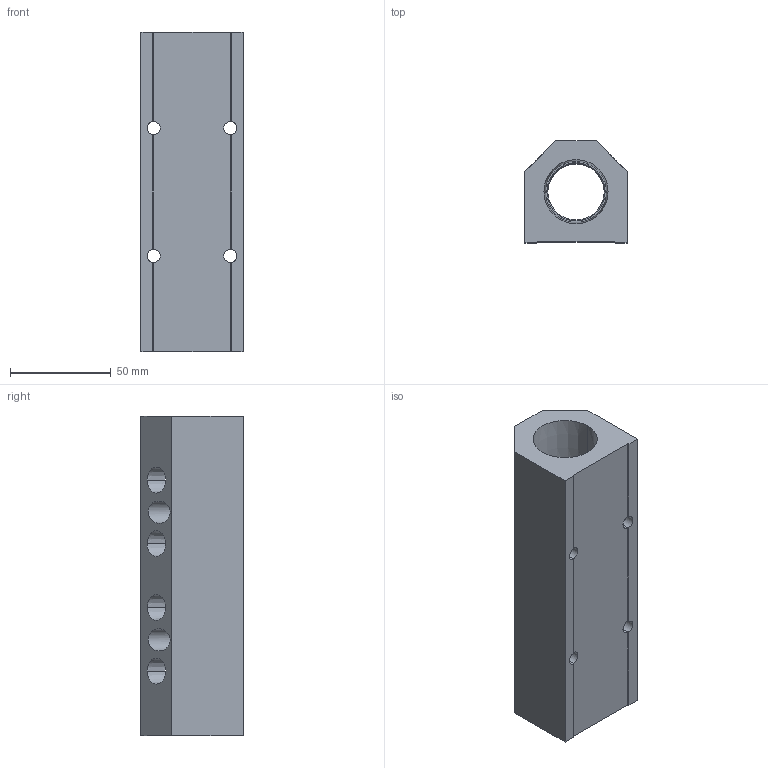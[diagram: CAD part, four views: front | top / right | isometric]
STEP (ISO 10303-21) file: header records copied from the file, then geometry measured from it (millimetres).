
FILE_DESCRIPTION (( 'STEP AP214' ), '1' );
FILE_NAME ('ALM4BD-N4N16-159R.STEP', '2023-11-02T06:48:47', ( '' ), ( '' ), 'SwSTEP 2.0', 'SolidWorks 2020', '' );
FILE_SCHEMA (( 'AUTOMOTIVE_DESIGN' ));
Length unit declared in the file: millimetre
Products named in the file (1): ALM4BD-N4N16-159R
Bounding box: 50.8 x 50.8 x 159 mm (x, y, z)
Volume: 245710.2 mm3; surface area: 52329.6 mm2
Topology: 1 solids, 1 shells, 312 faces, 812 edges, 536 vertices
Faces by surface type: plane 217, bspline 49, cone 24, cylinder 22
Entity records: 16178 total; most frequent: CARTESIAN_POINT 5994, ORIENTED_EDGE 1624, DIRECTION 1270, EDGE_CURVE 812, VECTOR 622, LINE 622, VERTEX_POINT 536, EDGE_LOOP 372
